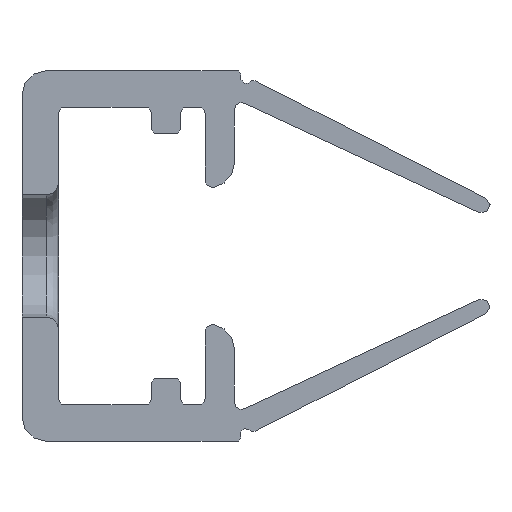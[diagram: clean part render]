
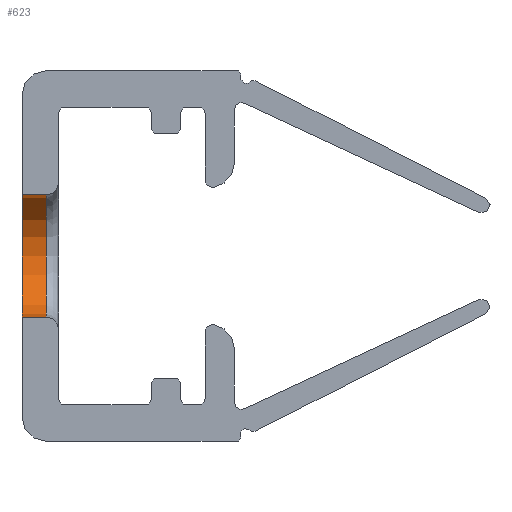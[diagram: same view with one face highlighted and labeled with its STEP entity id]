
A CAD part, left-side view. The second image highlights one B-rep face of the part: STEP entity #623.
In plain terms, the highlighted cylindrical face has radius 2.5 mm (diameter 5 mm), a partial arc.
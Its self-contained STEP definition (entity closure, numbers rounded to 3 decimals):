
#520=CYLINDRICAL_SURFACE('',#1724,2.5);
#552=CIRCLE('',#1711,2.5);
#557=CIRCLE('',#1723,2.5);
#623=ADVANCED_FACE('',(#688),#520,.F.);
#688=FACE_OUTER_BOUND('',#751,.T.);
#751=EDGE_LOOP('',(#1094,#1095,#1096,#1097));
#832=LINE('',#2314,#948);
#833=LINE('',#2316,#949);
#948=VECTOR('',#1898,1.);
#949=VECTOR('',#1901,1.);
#1094=ORIENTED_EDGE('',*,*,#1559,.T.);
#1095=ORIENTED_EDGE('',*,*,#1563,.T.);
#1096=ORIENTED_EDGE('',*,*,#1560,.T.);
#1097=ORIENTED_EDGE('',*,*,#1537,.F.);
#1411=VERTEX_POINT('',#2251);
#1412=VERTEX_POINT('',#2253);
#1427=VERTEX_POINT('',#2313);
#1428=VERTEX_POINT('',#2317);
#1537=EDGE_CURVE('',#1411,#1412,#552,.T.);
#1559=EDGE_CURVE('',#1411,#1427,#832,.T.);
#1560=EDGE_CURVE('',#1428,#1412,#833,.T.);
#1563=EDGE_CURVE('',#1427,#1428,#557,.T.);
#1711=AXIS2_PLACEMENT_3D('',#2252,#1862,#1863);
#1723=AXIS2_PLACEMENT_3D('',#2322,#1906,#1907);
#1724=AXIS2_PLACEMENT_3D('',#2323,#1908,#1909);
#1862=DIRECTION('',(0.,-1.,0.));
#1863=DIRECTION('',(0.,0.,1.));
#1898=DIRECTION('',(0.,-1.,0.));
#1901=DIRECTION('',(0.,1.,0.));
#1906=DIRECTION('',(0.,-1.,0.));
#1907=DIRECTION('',(0.,0.,-1.));
#1908=DIRECTION('',(0.,-1.,0.));
#1909=DIRECTION('',(-1.,0.,0.));
#2251=CARTESIAN_POINT('',(-92.5,19.003,-0.128));
#2252=CARTESIAN_POINT('',(-92.5,19.003,2.372));
#2253=CARTESIAN_POINT('',(-92.5,19.003,4.872));
#2313=CARTESIAN_POINT('',(-92.5,18.003,-0.128));
#2314=CARTESIAN_POINT('',(-92.5,16.003,-0.128));
#2316=CARTESIAN_POINT('',(-92.5,21.003,4.872));
#2317=CARTESIAN_POINT('',(-92.5,18.003,4.872));
#2322=CARTESIAN_POINT('',(-92.5,18.003,2.372));
#2323=CARTESIAN_POINT('',(-92.5,16.003,2.372));
